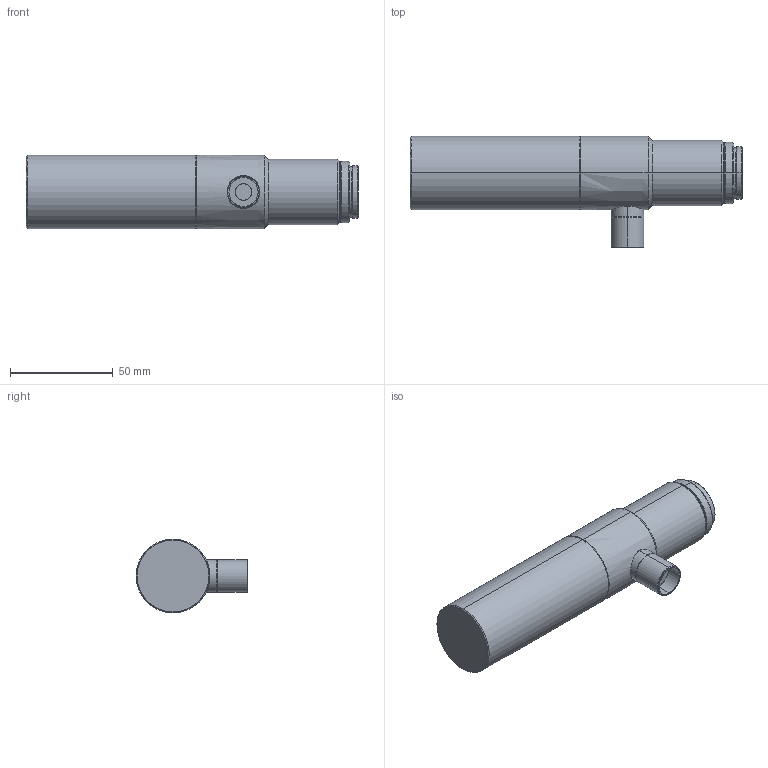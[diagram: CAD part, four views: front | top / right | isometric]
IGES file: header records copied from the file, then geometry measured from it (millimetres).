
Start section: SolidWorks IGES file using analytic representation for surfaces
Bounding box: 161.8 x 54.5 x 36 mm (x, y, z)
Surface area: 21114.7 mm2 (no closed solid volume)
Topology: 0 solids, 0 shells, 54 faces, 866 edges, 866 vertices
Faces by surface type: revolution 46, bspline 8
